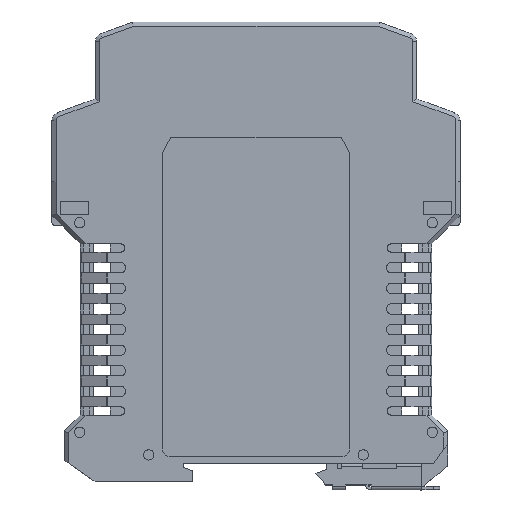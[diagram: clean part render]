
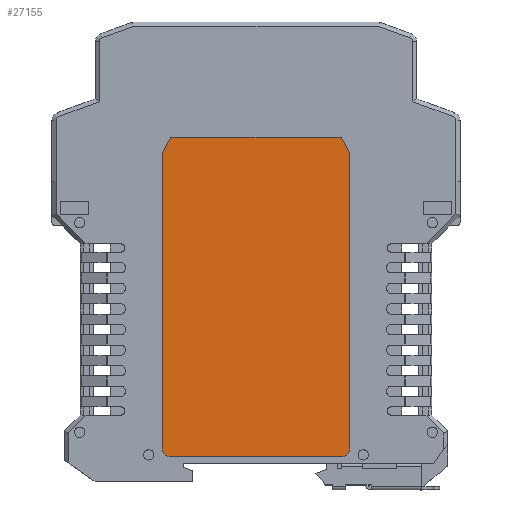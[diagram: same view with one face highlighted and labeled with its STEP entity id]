
A CAD part, top view. The second image highlights one B-rep face of the part: STEP entity #27155.
In plain terms, the highlighted planar face has unit normal (0, 0, 1).
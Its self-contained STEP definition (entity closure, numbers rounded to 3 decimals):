
#12698=DIRECTION('',(-0.454,0.891,0.));
#12699=VECTOR('',#12698,4.489);
#12700=CARTESIAN_POINT('',(-2108.643,-4941.249,
0.95));
#12701=LINE('',#12700,#12699);
#12702=DIRECTION('',(0.,1.,0.));
#12703=VECTOR('',#12702,71.5);
#12704=CARTESIAN_POINT('',(-2108.643,-5012.749,
0.95));
#12705=LINE('',#12704,#12703);
#12706=CARTESIAN_POINT('',(-2110.643,-5012.749,
0.95));
#12707=DIRECTION('',(0.,0.,1.));
#12708=DIRECTION('',(0.,-1.,0.));
#12709=AXIS2_PLACEMENT_3D('',#12706,#12707,#12708);
#12711=DIRECTION('',(1.,0.,0.));
#12712=VECTOR('',#12711,41.5);
#12713=CARTESIAN_POINT('',(-2152.143,-5014.749,
0.95));
#12714=LINE('',#12713,#12712);
#12715=CARTESIAN_POINT('',(-2152.143,-5012.749,
0.95));
#12716=DIRECTION('',(0.,0.,1.));
#12717=DIRECTION('',(-1.,0.,0.));
#12718=AXIS2_PLACEMENT_3D('',#12715,#12716,#12717);
#12720=DIRECTION('',(0.,-1.,0.));
#12721=VECTOR('',#12720,71.5);
#12722=CARTESIAN_POINT('',(-2154.143,-4941.249,
0.95));
#12723=LINE('',#12722,#12721);
#12724=DIRECTION('',(-0.454,-0.891,
0.));
#12725=VECTOR('',#12724,4.489);
#12726=CARTESIAN_POINT('',(-2152.105,-4937.249,
0.95));
#12727=LINE('',#12726,#12725);
#12728=DIRECTION('',(-1.,0.,0.));
#12729=VECTOR('',#12728,41.424);
#12730=CARTESIAN_POINT('',(-2110.681,-4937.249,
0.95));
#12731=LINE('',#12730,#12729);
#23732=CARTESIAN_POINT('',(-2108.643,-4941.249,
0.95));
#23733=VERTEX_POINT('',#23732);
#24605=CARTESIAN_POINT('',(-2154.143,-4941.249,
0.95));
#24606=CARTESIAN_POINT('',(-2154.143,-5012.749,
0.95));
#24607=VERTEX_POINT('',#24605);
#24608=VERTEX_POINT('',#24606);
#24842=CARTESIAN_POINT('',(-2108.643,-5012.749,
0.95));
#24844=VERTEX_POINT('',#24842);
#25340=CARTESIAN_POINT('',(-2152.143,-5014.749,
0.95));
#25341=VERTEX_POINT('',#25340);
#25756=CARTESIAN_POINT('',(-2110.681,-4937.249,
0.95));
#25757=VERTEX_POINT('',#25756);
#25764=CARTESIAN_POINT('',(-2152.105,-4937.249,
0.95));
#25765=VERTEX_POINT('',#25764);
#25926=CARTESIAN_POINT('',(-2110.643,-5014.749,
0.95));
#25927=VERTEX_POINT('',#25926);
#27133=CARTESIAN_POINT('',(0.,0.,0.95));
#27134=DIRECTION('',(0.,0.,-1.));
#27135=DIRECTION('',(-1.,0.,0.));
#27136=AXIS2_PLACEMENT_3D('',#27133,#27134,#27135);
#27137=PLANE('',#27136);
#27139=ORIENTED_EDGE('',*,*,#27138,.F.);
#27141=ORIENTED_EDGE('',*,*,#27140,.F.);
#27143=ORIENTED_EDGE('',*,*,#27142,.F.);
#27145=ORIENTED_EDGE('',*,*,#27144,.F.);
#27146=ORIENTED_EDGE('',*,*,#27116,.F.);
#27148=ORIENTED_EDGE('',*,*,#27147,.F.);
#27150=ORIENTED_EDGE('',*,*,#27149,.F.);
#27152=ORIENTED_EDGE('',*,*,#27151,.F.);
#27153=EDGE_LOOP('',(#27139,#27141,#27143,#27145,#27146,#27148,#27150,#27152));
#27154=FACE_OUTER_BOUND('',#27153,.F.);
#27155=ADVANCED_FACE('',(#27154),#27137,.F.);
#12710=CIRCLE('',#12709,2.);
#12719=CIRCLE('',#12718,2.);
#27116=EDGE_CURVE('',#24608,#25341,#12719,.T.);
#27138=EDGE_CURVE('',#23733,#25757,#12701,.T.);
#27140=EDGE_CURVE('',#24844,#23733,#12705,.T.);
#27142=EDGE_CURVE('',#25927,#24844,#12710,.T.);
#27144=EDGE_CURVE('',#25341,#25927,#12714,.T.);
#27147=EDGE_CURVE('',#24607,#24608,#12723,.T.);
#27149=EDGE_CURVE('',#25765,#24607,#12727,.T.);
#27151=EDGE_CURVE('',#25757,#25765,#12731,.T.);
